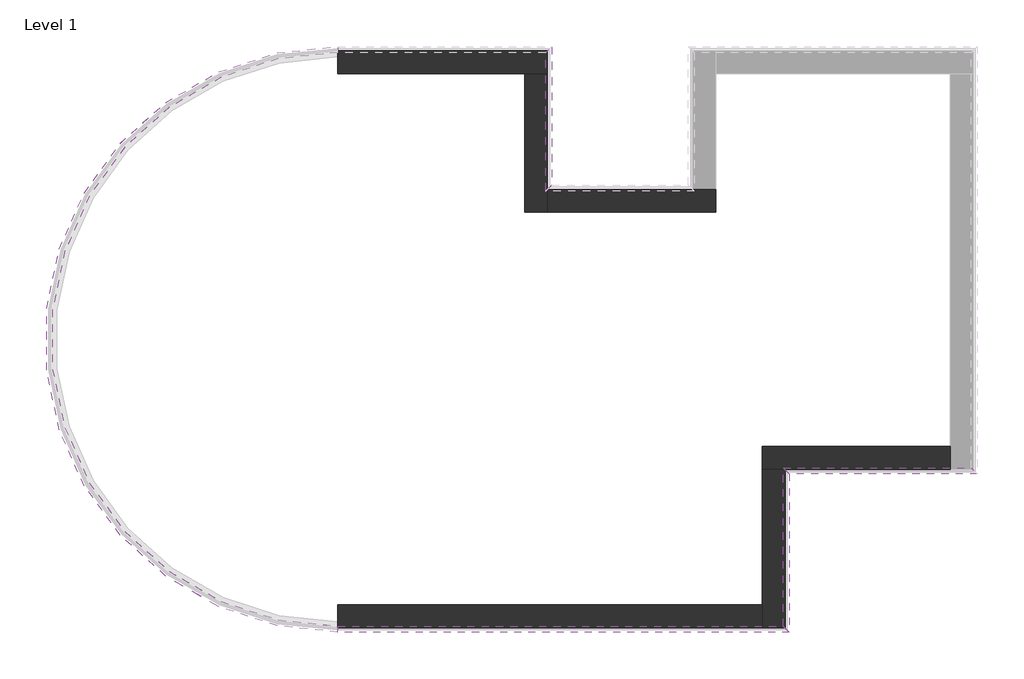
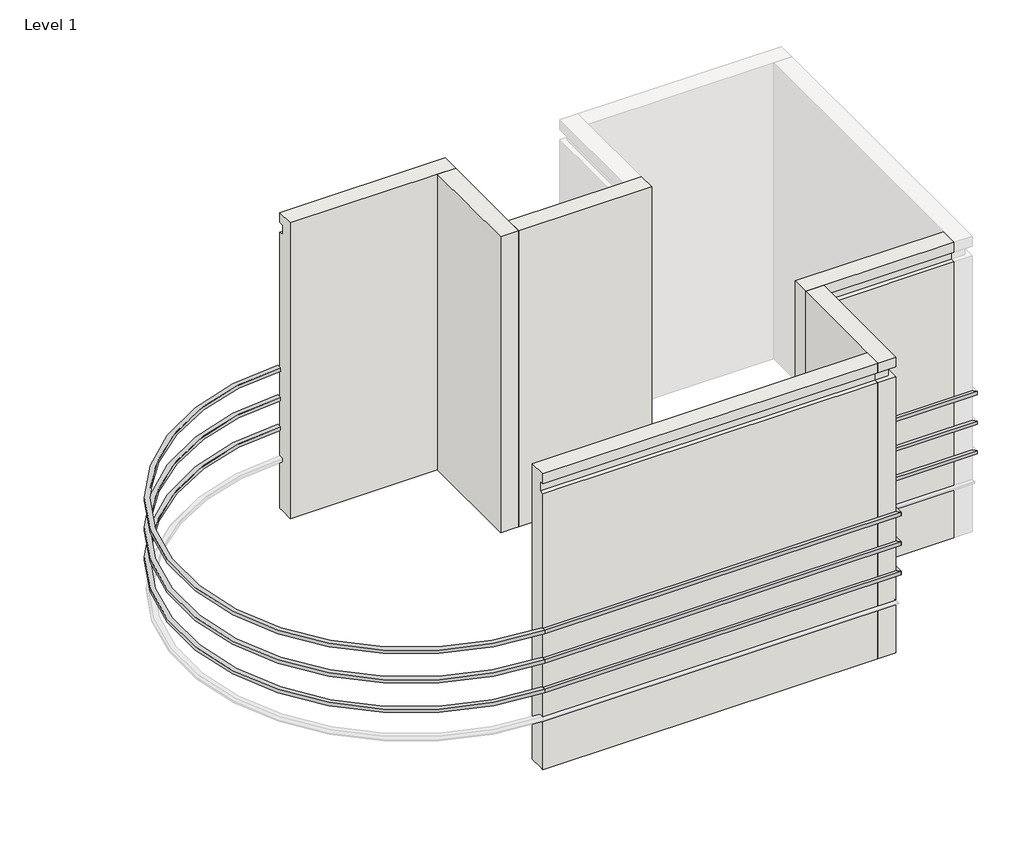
# One storey, part 1 of 2: 16 proxies, 6 walls.
"""IFC4 building model written with IfcOpenShell, lengths in millimetres."""

from ifc_helpers import new_model, si_unit, point, frame, frame_2d, origin, place, context, project, spatial, polyline, circle_curve, trimmed, segment, composite_curve, outline, extrude, faceted_brep, element, save

model = new_model("IFC4")

# Units and contexts
model_context = context("Model", 3, world=origin())
ifc_project = project(units=[si_unit("LENGTHUNIT", "METRE", prefix="MILLI")], contexts=[model_context])

# Site, building, storey
site = spatial("IfcSite", under=ifc_project)
building = spatial("IfcBuilding", under=site)
storey = spatial("IfcBuildingStorey", under=building, Name="Level 1", Elevation=0.0)

# Proxies
placement = place(None, origin())
element("IfcBuildingElementProxy", 1, Name="Reveals", at=placement, inside=storey, context=model_context, shape_type="SweptSolid", body=[
    extrude(outline(polyline([(-12454.5969576, 12119.8701144), (-12362.5219576, 12211.9451144), (-12362.5219576, 10078.3451144), (-12454.5969576, 9986.2701144), (-12454.5969576, 12119.8701144)])), frame((0.0, 0.0, 1625.6), z_axis=(0.0, 0.0, 1.0), x_axis=(1.0, 0.0, 0.0)), (0.0, 0.0, 1.0), 67.7333333),
])
element("IfcBuildingElementProxy", 2, Name="Reveals", at=placement, inside=storey, context=model_context, shape_type="SweptSolid", body=[
    extrude(outline(polyline([(-12454.5969576, 12119.8701144), (-12362.5219576, 12211.9451144), (-12362.5219576, 10078.3451144), (-12454.5969576, 9986.2701144), (-12454.5969576, 12119.8701144)])), frame((0.0, 0.0, 2235.2), z_axis=(0.0, 0.0, 1.0), x_axis=(1.0, 0.0, 0.0)), (0.0, 0.0, 1.0), 67.7333333),
])
element("IfcBuildingElementProxy", 3, Name="Reveals", at=placement, inside=storey, context=model_context, shape_type="SweptSolid", body=[
    extrude(outline(polyline([(-12454.5969576, 12119.8701144), (-12362.5219576, 12211.9451144), (-12362.5219576, 10078.3451144), (-12454.5969576, 9986.2701144), (-12454.5969576, 12119.8701144)])), frame((0.0, 0.0, 2844.8), z_axis=(0.0, 0.0, 1.0), x_axis=(1.0, 0.0, 0.0)), (0.0, 0.0, 1.0), 67.7333333),
])
element("IfcBuildingElementProxy", 4, Name="Reveals", at=placement, inside=storey, context=model_context, shape_type="SweptSolid", body=[
    extrude(outline(polyline([(-12454.5969576, 9986.2701144), (-12362.5219576, 10078.3451144), (-10257.4969576, 10078.3451144), (-10165.4219576, 9986.2701144), (-12454.5969576, 9986.2701144)])), frame((0.0, 0.0, 1625.6), z_axis=(0.0, 0.0, 1.0), x_axis=(1.0, 0.0, 0.0)), (0.0, 0.0, 1.0), 67.7333333),
])
element("IfcBuildingElementProxy", 5, Name="Reveals", at=placement, inside=storey, context=model_context, shape_type="SweptSolid", body=[
    extrude(outline(polyline([(-5901.3969576, 5722.2451144), (-5809.3219576, 5630.1701144), (-8704.9219576, 5630.1701144), (-8796.9969576, 5722.2451144), (-5901.3969576, 5722.2451144)])), frame((0.0, 0.0, 1625.6), z_axis=(0.0, 0.0, 1.0), x_axis=(1.0, 0.0, 0.0)), (0.0, 0.0, 1.0), 67.7333333),
])
element("IfcBuildingElementProxy", 6, Name="Reveals", at=placement, inside=storey, context=model_context, shape_type="SweptSolid", body=[
    extrude(outline(polyline([(-5901.3969576, 5722.2451144), (-5809.3219576, 5630.1701144), (-8704.9219576, 5630.1701144), (-8796.9969576, 5722.2451144), (-5901.3969576, 5722.2451144)])), frame((0.0, 0.0, 2235.2), z_axis=(0.0, 0.0, 1.0), x_axis=(1.0, 0.0, 0.0)), (0.0, 0.0, 1.0), 67.7333333),
])
element("IfcBuildingElementProxy", 7, Name="Reveals", at=placement, inside=storey, context=model_context, shape_type="SweptSolid", body=[
    extrude(outline(polyline([(-5901.3969576, 5722.2451144), (-5809.3219576, 5630.1701144), (-8704.9219576, 5630.1701144), (-8796.9969576, 5722.2451144), (-5901.3969576, 5722.2451144)])), frame((0.0, 0.0, 2844.8), z_axis=(0.0, 0.0, 1.0), x_axis=(1.0, 0.0, 0.0)), (0.0, 0.0, 1.0), 67.7333333),
])
element("IfcBuildingElementProxy", 8, Name="Reveals", at=placement, inside=storey, context=model_context, shape_type="SweptSolid", body=[
    extrude(outline(polyline([(-8796.9969576, 5722.2451144), (-8704.9219576, 5630.1701144), (-8704.9219576, 3191.7701144), (-8796.9969576, 3283.8451144), (-8796.9969576, 5722.2451144)])), frame((0.0, 0.0, 1625.6), z_axis=(0.0, 0.0, 1.0), x_axis=(1.0, 0.0, 0.0)), (0.0, 0.0, 1.0), 67.7333333),
])
element("IfcBuildingElementProxy", 9, Name="Reveals", at=placement, inside=storey, context=model_context, shape_type="SweptSolid", body=[
    extrude(outline(polyline([(-8796.9969576, 5722.2451144), (-8704.9219576, 5630.1701144), (-8704.9219576, 3191.7701144), (-8796.9969576, 3283.8451144), (-8796.9969576, 5722.2451144)])), frame((0.0, 0.0, 2235.2), z_axis=(0.0, 0.0, 1.0), x_axis=(1.0, 0.0, 0.0)), (0.0, 0.0, 1.0), 67.7333333),
])
element("IfcBuildingElementProxy", 10, Name="Reveals", at=placement, inside=storey, context=model_context, shape_type="SweptSolid", body=[
    extrude(outline(polyline([(-8796.9969576, 5722.2451144), (-8704.9219576, 5630.1701144), (-8704.9219576, 3191.7701144), (-8796.9969576, 3283.8451144), (-8796.9969576, 5722.2451144)])), frame((0.0, 0.0, 2844.8), z_axis=(0.0, 0.0, 1.0), x_axis=(1.0, 0.0, 0.0)), (0.0, 0.0, 1.0), 67.7333333),
])
element("IfcBuildingElementProxy", 11, Name="Reveals", at=placement, inside=storey, context=model_context, shape_type="SweptSolid", body=[
    extrude(outline(polyline([(-8796.9969576, 3283.8451144), (-8704.9219576, 3191.7701144), (-15653.4094576, 3191.7701144), (-15653.4094576, 3283.8451144), (-8796.9969576, 3283.8451144)])), frame((0.0, 0.0, 1625.6), z_axis=(0.0, 0.0, 1.0), x_axis=(1.0, 0.0, 0.0)), (0.0, 0.0, 1.0), 67.7333333),
])
element("IfcBuildingElementProxy", 12, Name="Reveals", at=placement, inside=storey, context=model_context, shape_type="SweptSolid", body=[
    extrude(outline(polyline([(-8796.9969576, 3283.8451144), (-8704.9219576, 3191.7701144), (-15653.4094576, 3191.7701144), (-15653.4094576, 3283.8451144), (-8796.9969576, 3283.8451144)])), frame((0.0, 0.0, 2235.2), z_axis=(0.0, 0.0, 1.0), x_axis=(1.0, 0.0, 0.0)), (0.0, 0.0, 1.0), 67.7333333),
])
element("IfcBuildingElementProxy", 13, Name="Reveals", at=placement, inside=storey, context=model_context, shape_type="SweptSolid", body=[
    extrude(outline(polyline([(-8796.9969576, 3283.8451144), (-8704.9219576, 3191.7701144), (-15653.4094576, 3191.7701144), (-15653.4094576, 3283.8451144), (-8796.9969576, 3283.8451144)])), frame((0.0, 0.0, 2844.8), z_axis=(0.0, 0.0, 1.0), x_axis=(1.0, 0.0, 0.0)), (0.0, 0.0, 1.0), 67.7333333),
])
element("IfcBuildingElementProxy", 14, Name="Reveals", at=placement, inside=storey, context=model_context, shape_type="SweptSolid", body=[
    extrude(outline(composite_curve([segment(trimmed(circle_curve(frame_2d((-15653.4094576, 7701.8576144)), 4418.0125), [point((-15653.4094576, 12119.8701144))], [point((-15653.4094576, 3283.8451144))], True, "CARTESIAN"), True, "CONTINUOUS"), segment(polyline([(-15653.4094576, 3283.8451144), (-15653.4094576, 3191.7701144)]), True, "CONTINUOUS"), segment(trimmed(circle_curve(frame_2d((-15653.4094576, 7701.8576144)), 4510.0875), [point((-15653.4094576, 3191.7701144))], [point((-15653.4094576, 12211.9451144))], False, "CARTESIAN"), True, "CONTINUOUS"), segment(polyline([(-15653.4094576, 12211.9451144), (-15653.4094576, 12119.8701144)]), True, "CONTINUOUS")], self_intersect=False)), frame((0.0, 0.0, 1625.6), z_axis=(0.0, 0.0, 1.0), x_axis=(1.0, 0.0, 0.0)), (0.0, 0.0, 1.0), 67.7333333),
])
element("IfcBuildingElementProxy", 15, Name="Reveals", at=placement, inside=storey, context=model_context, shape_type="SweptSolid", body=[
    extrude(outline(composite_curve([segment(trimmed(circle_curve(frame_2d((-15653.4094576, 7701.8576144)), 4418.0125), [point((-15653.4094576, 12119.8701144))], [point((-15653.4094576, 3283.8451144))], True, "CARTESIAN"), True, "CONTINUOUS"), segment(polyline([(-15653.4094576, 3283.8451144), (-15653.4094576, 3191.7701144)]), True, "CONTINUOUS"), segment(trimmed(circle_curve(frame_2d((-15653.4094576, 7701.8576144)), 4510.0875), [point((-15653.4094576, 3191.7701144))], [point((-15653.4094576, 12211.9451144))], False, "CARTESIAN"), True, "CONTINUOUS"), segment(polyline([(-15653.4094576, 12211.9451144), (-15653.4094576, 12119.8701144)]), True, "CONTINUOUS")], self_intersect=False)), frame((0.0, 0.0, 2235.2), z_axis=(0.0, 0.0, 1.0), x_axis=(1.0, 0.0, 0.0)), (0.0, 0.0, 1.0), 67.7333333),
])
element("IfcBuildingElementProxy", 16, Name="Reveals", at=placement, inside=storey, context=model_context, shape_type="SweptSolid", body=[
    extrude(outline(composite_curve([segment(trimmed(circle_curve(frame_2d((-15653.4094576, 7701.8576144)), 4418.0125), [point((-15653.4094576, 12119.8701144))], [point((-15653.4094576, 3283.8451144))], True, "CARTESIAN"), True, "CONTINUOUS"), segment(polyline([(-15653.4094576, 3283.8451144), (-15653.4094576, 3191.7701144)]), True, "CONTINUOUS"), segment(trimmed(circle_curve(frame_2d((-15653.4094576, 7701.8576144)), 4510.0875), [point((-15653.4094576, 3191.7701144))], [point((-15653.4094576, 12211.9451144))], False, "CARTESIAN"), True, "CONTINUOUS"), segment(polyline([(-15653.4094576, 12211.9451144), (-15653.4094576, 12119.8701144)]), True, "CONTINUOUS")], self_intersect=False)), frame((0.0, 0.0, 2844.8), z_axis=(0.0, 0.0, 1.0), x_axis=(1.0, 0.0, 0.0)), (0.0, 0.0, 1.0), 67.7333333),
])

# Walls
element("IfcWall", 17, ObjectType="Exterior - Brick and CMU on MTL. Stud", at=placement, inside=storey, context=model_context, shape_type="Brep", body=[
    faceted_brep([(-15653.4094576, 11792.8451144, 0.0), (-12781.6219576, 11792.8451144, 0.0), (-12429.1969576, 11792.8451144, 0.0), (-12429.1969576, 11792.8451144, 1016.0), (-12521.2719576, 11792.8451144, 1016.0), (-12521.2719576, 11792.8451144, 1085.85), (-12429.1969576, 11792.8451144, 1085.85), (-12429.1969576, 11792.8451144, 1625.6), (-12454.5969576, 11792.8451144, 1625.6), (-12454.5969576, 11792.8451144, 1693.3333333), (-12429.1969576, 11792.8451144, 1693.3333333), (-12429.1969576, 11792.8451144, 2235.2), (-12454.5969576, 11792.8451144, 2235.2), (-12454.5969576, 11792.8451144, 2302.9333333), (-12429.1969576, 11792.8451144, 2302.9333333), (-12429.1969576, 11792.8451144, 2844.8), (-12454.5969576, 11792.8451144, 2844.8), (-12454.5969576, 11792.8451144, 2912.5333333), (-12429.1969576, 11792.8451144, 2912.5333333), (-12429.1969576, 11792.8451144, 5689.6), (-12521.2719576, 11792.8451144, 5689.6), (-12521.2719576, 11792.8451144, 5892.8), (-12429.1969576, 11792.8451144, 5892.8), (-12429.1969576, 11792.8451144, 6096.0), (-12781.6219576, 11792.8451144, 6096.0), (-15653.4094576, 11792.8451144, 6096.0), (-15653.4094576, 12145.2701144, 6096.0), (-12429.1969576, 12145.2701144, 6096.0), (-12429.1969576, 12145.2701144, 5892.8), (-15653.4094576, 12145.2701144, 5892.8), (-12429.1969576, 12145.2701144, 0.0), (-15653.4094576, 12145.2701144, 0.0), (-15653.4094576, 12145.2701144, 1016.0), (-12429.1969576, 12145.2701144, 1016.0), (-12429.1969576, 12145.2701144, 1693.3333333), (-15653.4094576, 12145.2701144, 1693.3333333), (-15653.4094576, 12145.2701144, 2235.2), (-12429.1969576, 12145.2701144, 2235.2), (-15653.4094576, 12145.2701144, 1625.6), (-12429.1969576, 12145.2701144, 1625.6), (-12429.1969576, 12145.2701144, 1085.85), (-15653.4094576, 12145.2701144, 1085.85), (-12429.1969576, 12145.2701144, 2302.9333333), (-15653.4094576, 12145.2701144, 2302.9333333), (-15653.4094576, 12145.2701144, 2844.8), (-12429.1969576, 12145.2701144, 2844.8), (-12429.1969576, 12145.2701144, 2912.5333333), (-15653.4094576, 12145.2701144, 2912.5333333), (-15653.4094576, 12145.2701144, 5689.6), (-12429.1969576, 12145.2701144, 5689.6), (-15653.4094576, 12053.1951144, 5892.8), (-15653.4094576, 12053.1951144, 5689.6), (-15653.4094576, 12119.8701144, 2912.5333333), (-15653.4094576, 12119.8701144, 2844.8), (-15653.4094576, 12119.8701144, 2302.9333333), (-15653.4094576, 12119.8701144, 2235.2), (-15653.4094576, 12119.8701144, 1693.3333333), (-15653.4094576, 12119.8701144, 1625.6), (-15653.4094576, 12053.1951144, 1085.85), (-15653.4094576, 12053.1951144, 1016.0), (-15653.4094576, 12053.1951144, 0.0), (-12429.1969576, 12053.1951144, 0.0), (-12454.5969576, 12119.8701144, 1693.3333333), (-12454.5969576, 12119.8701144, 1625.6), (-12454.5969576, 12119.8701144, 2302.9333333), (-12454.5969576, 12119.8701144, 2235.2), (-12454.5969576, 12119.8701144, 2912.5333333), (-12454.5969576, 12119.8701144, 2844.8), (-12521.2719576, 12053.1951144, 1085.85), (-12521.2719576, 12053.1951144, 1016.0), (-12521.2719576, 12053.1951144, 5689.6), (-12521.2719576, 12053.1951144, 5892.8)], [[[0, 1, 2, 3, 4, 5, 6, 7, 8, 9, 10, 11, 12, 13, 14, 15, 16, 17, 18, 19, 20, 21, 22, 23, 24, 25]], [[26, 27, 28, 29]], [[30, 31, 32, 33]], [[34, 35, 36, 37]], [[38, 39, 40, 41]], [[42, 43, 44, 45]], [[46, 47, 48, 49]], [[25, 24, 23, 27, 26]], [[0, 25, 26, 29, 50, 51, 48, 47, 52, 53, 44, 43, 54, 55, 36, 35, 56, 57, 38, 41, 58, 59, 32, 31, 60]], [[2, 1, 0, 60, 61]], [[60, 31, 30, 61]], [[62, 56, 35, 34, 10, 9]], [[57, 63, 8, 7, 39, 38]], [[56, 62, 63, 57]], [[64, 54, 43, 42, 14, 13]], [[55, 65, 12, 11, 37, 36]], [[54, 64, 65, 55]], [[66, 52, 47, 46, 18, 17]], [[53, 67, 16, 15, 45, 44]], [[52, 66, 67, 53]], [[68, 58, 41, 40, 6, 5]], [[59, 69, 4, 3, 33, 32]], [[58, 68, 69, 59]], [[51, 70, 20, 19, 49, 48]], [[70, 51, 50, 71]], [[71, 50, 29, 28, 22, 21]], [[27, 23, 22, 28]], [[2, 61, 30, 33, 3]], [[10, 34, 37, 11]], [[39, 7, 6, 40]], [[14, 42, 45, 15]], [[18, 46, 49, 19]], [[63, 62, 9, 8]], [[65, 64, 13, 12]], [[67, 66, 17, 16]], [[69, 68, 5, 4]], [[70, 71, 21, 20]]]),
])
element("IfcWall", 18, ObjectType="Exterior - Brick and CMU on MTL. Stud", at=placement, inside=storey, context=model_context, shape_type="Brep", body=[
    faceted_brep([(-12781.6219576, 11792.8451144, 0.0), (-12781.6219576, 9659.2451144, 0.0), (-12781.6219576, 9659.2451144, 6096.0), (-12781.6219576, 11792.8451144, 6096.0), (-12429.1969576, 11792.8451144, 6096.0), (-12429.1969576, 10011.6701144, 6096.0), (-12429.1969576, 9659.2451144, 6096.0), (-12429.1969576, 9659.2451144, 0.0), (-12429.1969576, 10011.6701144, 0.0), (-12429.1969576, 11792.8451144, 0.0), (-12429.1969576, 11792.8451144, 1016.0), (-12429.1969576, 10011.6701144, 1016.0), (-12429.1969576, 9919.5951144, 1016.0), (-12429.1969576, 9919.5951144, 1085.85), (-12429.1969576, 10011.6701144, 1085.85), (-12429.1969576, 11792.8451144, 1085.85), (-12429.1969576, 11792.8451144, 1625.6), (-12429.1969576, 10011.6701144, 1625.6), (-12429.1969576, 9986.2701144, 1625.6), (-12429.1969576, 9986.2701144, 1693.3333333), (-12429.1969576, 10011.6701144, 1693.3333333), (-12429.1969576, 11792.8451144, 1693.3333333), (-12429.1969576, 11792.8451144, 2235.2), (-12429.1969576, 10011.6701144, 2235.2), (-12429.1969576, 9986.2701144, 2235.2), (-12429.1969576, 9986.2701144, 2302.9333333), (-12429.1969576, 10011.6701144, 2302.9333333), (-12429.1969576, 11792.8451144, 2302.9333333), (-12429.1969576, 11792.8451144, 2844.8), (-12429.1969576, 10011.6701144, 2844.8), (-12429.1969576, 9986.2701144, 2844.8), (-12429.1969576, 9986.2701144, 2912.5333333), (-12429.1969576, 10011.6701144, 2912.5333333), (-12429.1969576, 11792.8451144, 2912.5333333), (-12429.1969576, 11792.8451144, 5689.6), (-12429.1969576, 10011.6701144, 5689.6), (-12429.1969576, 9919.5951144, 5689.6), (-12429.1969576, 9919.5951144, 5892.8), (-12429.1969576, 10011.6701144, 5892.8), (-12429.1969576, 11792.8451144, 5892.8), (-12521.2719576, 11792.8451144, 0.0), (-12521.2719576, 9659.2451144, 0.0), (-12454.5969576, 9986.2701144, 1625.6), (-12454.5969576, 11792.8451144, 1625.6), (-12454.5969576, 11792.8451144, 1693.3333333), (-12454.5969576, 9986.2701144, 1693.3333333), (-12454.5969576, 9986.2701144, 2235.2), (-12454.5969576, 11792.8451144, 2235.2), (-12454.5969576, 11792.8451144, 2302.9333333), (-12454.5969576, 9986.2701144, 2302.9333333), (-12454.5969576, 9986.2701144, 2844.8), (-12454.5969576, 11792.8451144, 2844.8), (-12454.5969576, 11792.8451144, 2912.5333333), (-12454.5969576, 9986.2701144, 2912.5333333), (-12521.2719576, 9919.5951144, 1016.0), (-12521.2719576, 11792.8451144, 1016.0), (-12521.2719576, 11792.8451144, 1085.85), (-12521.2719576, 9919.5951144, 1085.85), (-12521.2719576, 9919.5951144, 5892.8), (-12521.2719576, 9919.5951144, 5689.6), (-12521.2719576, 11792.8451144, 5689.6), (-12521.2719576, 11792.8451144, 5892.8)], [[[0, 1, 2, 3]], [[4, 5, 6, 7, 8, 9, 10, 11, 12, 13, 14, 15, 16, 17, 18, 19, 20, 21, 22, 23, 24, 25, 26, 27, 28, 29, 30, 31, 32, 33, 34, 35, 36, 37, 38, 39]], [[3, 2, 6, 5, 4]], [[1, 0, 40, 41]], [[42, 43, 44, 45]], [[46, 47, 48, 49]], [[50, 51, 52, 53]], [[54, 55, 56, 57]], [[58, 59, 60, 61]], [[0, 3, 4, 39, 61, 60, 34, 33, 52, 51, 28, 27, 48, 47, 22, 21, 44, 43, 16, 15, 56, 55, 10, 9, 40]], [[9, 8, 7, 41, 40]], [[45, 44, 21, 20, 19]], [[43, 42, 18, 17, 16]], [[49, 48, 27, 26, 25]], [[47, 46, 24, 23, 22]], [[53, 52, 33, 32, 31]], [[51, 50, 30, 29, 28]], [[57, 56, 15, 14, 13]], [[55, 54, 12, 11, 10]], [[60, 59, 36, 35, 34]], [[37, 58, 61, 39, 38]], [[2, 1, 41, 7, 6]], [[42, 45, 19, 18]], [[46, 49, 25, 24]], [[50, 53, 31, 30]], [[54, 57, 13, 12]], [[59, 58, 37, 36]]]),
])
element("IfcWall", 19, ObjectType="Exterior - Brick and CMU on MTL. Stud", at=placement, inside=storey, context=model_context, shape_type="Brep", body=[
    faceted_brep([(-12429.1969576, 9659.2451144, 0.0), (-9838.3969576, 9659.2451144, 0.0), (-9838.3969576, 9659.2451144, 6096.0), (-12429.1969576, 9659.2451144, 6096.0), (-12429.1969576, 10011.6701144, 6096.0), (-10190.8219576, 10011.6701144, 6096.0), (-9838.3969576, 10011.6701144, 6096.0), (-9838.3969576, 10011.6701144, 0.0), (-10190.8219576, 10011.6701144, 0.0), (-12429.1969576, 10011.6701144, 0.0), (-12429.1969576, 10011.6701144, 1016.0), (-10190.8219576, 10011.6701144, 1016.0), (-10098.7469576, 10011.6701144, 1016.0), (-10098.7469576, 10011.6701144, 1085.85), (-10190.8219576, 10011.6701144, 1085.85), (-12429.1969576, 10011.6701144, 1085.85), (-12429.1969576, 10011.6701144, 1625.6), (-10190.8219576, 10011.6701144, 1625.6), (-10165.4219576, 10011.6701144, 1625.6), (-10165.4219576, 10011.6701144, 1693.3333333), (-10190.8219576, 10011.6701144, 1693.3333333), (-12429.1969576, 10011.6701144, 1693.3333333), (-12429.1969576, 10011.6701144, 2235.2), (-10190.8219576, 10011.6701144, 2235.2), (-10165.4219576, 10011.6701144, 2235.2), (-10165.4219576, 10011.6701144, 2302.9333333), (-10190.8219576, 10011.6701144, 2302.9333333), (-12429.1969576, 10011.6701144, 2302.9333333), (-12429.1969576, 10011.6701144, 2844.8), (-10190.8219576, 10011.6701144, 2844.8), (-10165.4219576, 10011.6701144, 2844.8), (-10165.4219576, 10011.6701144, 2912.5333333), (-10190.8219576, 10011.6701144, 2912.5333333), (-12429.1969576, 10011.6701144, 2912.5333333), (-12429.1969576, 10011.6701144, 5689.6), (-10190.8219576, 10011.6701144, 5689.6), (-10098.7469576, 10011.6701144, 5689.6), (-10098.7469576, 10011.6701144, 5892.8), (-10190.8219576, 10011.6701144, 5892.8), (-12429.1969576, 10011.6701144, 5892.8), (-12429.1969576, 9919.5951144, 0.0), (-9838.3969576, 9919.5951144, 0.0), (-10165.4219576, 9986.2701144, 1625.6), (-12429.1969576, 9986.2701144, 1625.6), (-12429.1969576, 9986.2701144, 1693.3333333), (-10165.4219576, 9986.2701144, 1693.3333333), (-10165.4219576, 9986.2701144, 2235.2), (-12429.1969576, 9986.2701144, 2235.2), (-12429.1969576, 9986.2701144, 2302.9333333), (-10165.4219576, 9986.2701144, 2302.9333333), (-10165.4219576, 9986.2701144, 2844.8), (-12429.1969576, 9986.2701144, 2844.8), (-12429.1969576, 9986.2701144, 2912.5333333), (-10165.4219576, 9986.2701144, 2912.5333333), (-10098.7469576, 9919.5951144, 1016.0), (-12429.1969576, 9919.5951144, 1016.0), (-12429.1969576, 9919.5951144, 1085.85), (-10098.7469576, 9919.5951144, 1085.85), (-10098.7469576, 9919.5951144, 5892.8), (-10098.7469576, 9919.5951144, 5689.6), (-12429.1969576, 9919.5951144, 5689.6), (-12429.1969576, 9919.5951144, 5892.8)], [[[0, 1, 2, 3]], [[4, 5, 6, 7, 8, 9, 10, 11, 12, 13, 14, 15, 16, 17, 18, 19, 20, 21, 22, 23, 24, 25, 26, 27, 28, 29, 30, 31, 32, 33, 34, 35, 36, 37, 38, 39]], [[3, 2, 6, 5, 4]], [[1, 0, 40, 41]], [[42, 43, 44, 45]], [[46, 47, 48, 49]], [[50, 51, 52, 53]], [[54, 55, 56, 57]], [[58, 59, 60, 61]], [[0, 3, 4, 39, 61, 60, 34, 33, 52, 51, 28, 27, 48, 47, 22, 21, 44, 43, 16, 15, 56, 55, 10, 9, 40]], [[9, 8, 7, 41, 40]], [[45, 44, 21, 20, 19]], [[43, 42, 18, 17, 16]], [[49, 48, 27, 26, 25]], [[47, 46, 24, 23, 22]], [[53, 52, 33, 32, 31]], [[51, 50, 30, 29, 28]], [[57, 56, 15, 14, 13]], [[55, 54, 12, 11, 10]], [[60, 59, 36, 35, 34]], [[37, 58, 61, 39, 38]], [[2, 1, 41, 7, 6]], [[42, 45, 19, 18]], [[46, 49, 25, 24]], [[50, 53, 31, 30]], [[54, 57, 13, 12]], [[59, 58, 37, 36]]]),
])
element("IfcWall", 20, ObjectType="Exterior - Brick and CMU on MTL. Stud", at=placement, inside=storey, context=model_context, shape_type="Brep", body=[
    faceted_brep([(-6228.4219576, 6049.2701144, 0.0), (-9124.0219576, 6049.2701144, 0.0), (-9124.0219576, 6049.2701144, 6096.0), (-6228.4219576, 6049.2701144, 6096.0), (-6228.4219576, 5696.8451144, 6096.0), (-8771.5969576, 5696.8451144, 6096.0), (-9124.0219576, 5696.8451144, 6096.0), (-9124.0219576, 5696.8451144, 0.0), (-8771.5969576, 5696.8451144, 0.0), (-6228.4219576, 5696.8451144, 0.0), (-6228.4219576, 5696.8451144, 1016.0), (-8771.5969576, 5696.8451144, 1016.0), (-8863.6719576, 5696.8451144, 1016.0), (-8863.6719576, 5696.8451144, 1085.85), (-8771.5969576, 5696.8451144, 1085.85), (-6228.4219576, 5696.8451144, 1085.85), (-6228.4219576, 5696.8451144, 1625.6), (-8771.5969576, 5696.8451144, 1625.6), (-8796.9969576, 5696.8451144, 1625.6), (-8796.9969576, 5696.8451144, 1693.3333333), (-8771.5969576, 5696.8451144, 1693.3333333), (-6228.4219576, 5696.8451144, 1693.3333333), (-6228.4219576, 5696.8451144, 2235.2), (-8771.5969576, 5696.8451144, 2235.2), (-8796.9969576, 5696.8451144, 2235.2), (-8796.9969576, 5696.8451144, 2302.9333333), (-8771.5969576, 5696.8451144, 2302.9333333), (-6228.4219576, 5696.8451144, 2302.9333333), (-6228.4219576, 5696.8451144, 2844.8), (-8771.5969576, 5696.8451144, 2844.8), (-8796.9969576, 5696.8451144, 2844.8), (-8796.9969576, 5696.8451144, 2912.5333333), (-8771.5969576, 5696.8451144, 2912.5333333), (-6228.4219576, 5696.8451144, 2912.5333333), (-6228.4219576, 5696.8451144, 5689.6), (-8771.5969576, 5696.8451144, 5689.6), (-8863.6719576, 5696.8451144, 5689.6), (-8863.6719576, 5696.8451144, 5892.8), (-8771.5969576, 5696.8451144, 5892.8), (-6228.4219576, 5696.8451144, 5892.8), (-6228.4219576, 5788.9201144, 0.0), (-9124.0219576, 5788.9201144, 0.0), (-8796.9969576, 5722.2451144, 1625.6), (-6228.4219576, 5722.2451144, 1625.6), (-6228.4219576, 5722.2451144, 1693.3333333), (-8796.9969576, 5722.2451144, 1693.3333333), (-8796.9969576, 5722.2451144, 2235.2), (-6228.4219576, 5722.2451144, 2235.2), (-6228.4219576, 5722.2451144, 2302.9333333), (-8796.9969576, 5722.2451144, 2302.9333333), (-8796.9969576, 5722.2451144, 2844.8), (-6228.4219576, 5722.2451144, 2844.8), (-6228.4219576, 5722.2451144, 2912.5333333), (-8796.9969576, 5722.2451144, 2912.5333333), (-8863.6719576, 5788.9201144, 1016.0), (-6228.4219576, 5788.9201144, 1016.0), (-6228.4219576, 5788.9201144, 1085.85), (-8863.6719576, 5788.9201144, 1085.85), (-8863.6719576, 5788.9201144, 5892.8), (-8863.6719576, 5788.9201144, 5689.6), (-6228.4219576, 5788.9201144, 5689.6), (-6228.4219576, 5788.9201144, 5892.8)], [[[0, 1, 2, 3]], [[4, 5, 6, 7, 8, 9, 10, 11, 12, 13, 14, 15, 16, 17, 18, 19, 20, 21, 22, 23, 24, 25, 26, 27, 28, 29, 30, 31, 32, 33, 34, 35, 36, 37, 38, 39]], [[3, 2, 6, 5, 4]], [[1, 0, 40, 41]], [[42, 43, 44, 45]], [[46, 47, 48, 49]], [[50, 51, 52, 53]], [[54, 55, 56, 57]], [[58, 59, 60, 61]], [[0, 3, 4, 39, 61, 60, 34, 33, 52, 51, 28, 27, 48, 47, 22, 21, 44, 43, 16, 15, 56, 55, 10, 9, 40]], [[9, 8, 7, 41, 40]], [[45, 44, 21, 20, 19]], [[43, 42, 18, 17, 16]], [[49, 48, 27, 26, 25]], [[47, 46, 24, 23, 22]], [[53, 52, 33, 32, 31]], [[51, 50, 30, 29, 28]], [[57, 56, 15, 14, 13]], [[55, 54, 12, 11, 10]], [[60, 59, 36, 35, 34]], [[37, 58, 61, 39, 38]], [[2, 1, 41, 7, 6]], [[42, 45, 19, 18]], [[46, 49, 25, 24]], [[50, 53, 31, 30]], [[54, 57, 13, 12]], [[59, 58, 37, 36]]]),
])
element("IfcWall", 21, ObjectType="Exterior - Brick and CMU on MTL. Stud", at=placement, inside=storey, context=model_context, shape_type="Brep", body=[
    faceted_brep([(-9124.0219576, 5696.8451144, 0.0), (-9124.0219576, 3610.8701144, 0.0), (-9124.0219576, 3258.4451144, 0.0), (-9124.0219576, 3258.4451144, 1016.0), (-9124.0219576, 3350.5201144, 1016.0), (-9124.0219576, 3350.5201144, 1085.85), (-9124.0219576, 3258.4451144, 1085.85), (-9124.0219576, 3258.4451144, 1625.6), (-9124.0219576, 3283.8451144, 1625.6), (-9124.0219576, 3283.8451144, 1693.3333333), (-9124.0219576, 3258.4451144, 1693.3333333), (-9124.0219576, 3258.4451144, 2235.2), (-9124.0219576, 3283.8451144, 2235.2), (-9124.0219576, 3283.8451144, 2302.9333333), (-9124.0219576, 3258.4451144, 2302.9333333), (-9124.0219576, 3258.4451144, 2844.8), (-9124.0219576, 3283.8451144, 2844.8), (-9124.0219576, 3283.8451144, 2912.5333333), (-9124.0219576, 3258.4451144, 2912.5333333), (-9124.0219576, 3258.4451144, 5689.6), (-9124.0219576, 3350.5201144, 5689.6), (-9124.0219576, 3350.5201144, 5892.8), (-9124.0219576, 3258.4451144, 5892.8), (-9124.0219576, 3258.4451144, 6096.0), (-9124.0219576, 3610.8701144, 6096.0), (-9124.0219576, 5696.8451144, 6096.0), (-8771.5969576, 5696.8451144, 6096.0), (-8771.5969576, 3258.4451144, 6096.0), (-8771.5969576, 3258.4451144, 5892.8), (-8771.5969576, 5696.8451144, 5892.8), (-8771.5969576, 3258.4451144, 0.0), (-8771.5969576, 5696.8451144, 0.0), (-8771.5969576, 5696.8451144, 1016.0), (-8771.5969576, 3258.4451144, 1016.0), (-8771.5969576, 3258.4451144, 1693.3333333), (-8771.5969576, 5696.8451144, 1693.3333333), (-8771.5969576, 5696.8451144, 2235.2), (-8771.5969576, 3258.4451144, 2235.2), (-8771.5969576, 5696.8451144, 1625.6), (-8771.5969576, 3258.4451144, 1625.6), (-8771.5969576, 3258.4451144, 1085.85), (-8771.5969576, 5696.8451144, 1085.85), (-8771.5969576, 3258.4451144, 2302.9333333), (-8771.5969576, 5696.8451144, 2302.9333333), (-8771.5969576, 5696.8451144, 2844.8), (-8771.5969576, 3258.4451144, 2844.8), (-8771.5969576, 3258.4451144, 2912.5333333), (-8771.5969576, 5696.8451144, 2912.5333333), (-8771.5969576, 5696.8451144, 5689.6), (-8771.5969576, 3258.4451144, 5689.6), (-8863.6719576, 5696.8451144, 0.0), (-8863.6719576, 3258.4451144, 0.0), (-8796.9969576, 3283.8451144, 1625.6), (-8796.9969576, 5696.8451144, 1625.6), (-8796.9969576, 5696.8451144, 1693.3333333), (-8796.9969576, 3283.8451144, 1693.3333333), (-8796.9969576, 3283.8451144, 2235.2), (-8796.9969576, 5696.8451144, 2235.2), (-8796.9969576, 5696.8451144, 2302.9333333), (-8796.9969576, 3283.8451144, 2302.9333333), (-8796.9969576, 3283.8451144, 2844.8), (-8796.9969576, 5696.8451144, 2844.8), (-8796.9969576, 5696.8451144, 2912.5333333), (-8796.9969576, 3283.8451144, 2912.5333333), (-8863.6719576, 3350.5201144, 1016.0), (-8863.6719576, 5696.8451144, 1016.0), (-8863.6719576, 5696.8451144, 1085.85), (-8863.6719576, 3350.5201144, 1085.85), (-8863.6719576, 3350.5201144, 5892.8), (-8863.6719576, 3350.5201144, 5689.6), (-8863.6719576, 5696.8451144, 5689.6), (-8863.6719576, 5696.8451144, 5892.8)], [[[0, 1, 2, 3, 4, 5, 6, 7, 8, 9, 10, 11, 12, 13, 14, 15, 16, 17, 18, 19, 20, 21, 22, 23, 24, 25]], [[26, 27, 28, 29]], [[30, 31, 32, 33]], [[34, 35, 36, 37]], [[38, 39, 40, 41]], [[42, 43, 44, 45]], [[46, 47, 48, 49]], [[25, 24, 23, 27, 26]], [[2, 1, 0, 50, 51]], [[52, 53, 54, 55]], [[56, 57, 58, 59]], [[60, 61, 62, 63]], [[64, 65, 66, 67]], [[68, 69, 70, 71]], [[0, 25, 26, 29, 71, 70, 48, 47, 62, 61, 44, 43, 58, 57, 36, 35, 54, 53, 38, 41, 66, 65, 32, 31, 50]], [[31, 30, 51, 50]], [[55, 54, 35, 34, 10, 9]], [[53, 52, 8, 7, 39, 38]], [[59, 58, 43, 42, 14, 13]], [[57, 56, 12, 11, 37, 36]], [[63, 62, 47, 46, 18, 17]], [[61, 60, 16, 15, 45, 44]], [[67, 66, 41, 40, 6, 5]], [[65, 64, 4, 3, 33, 32]], [[70, 69, 20, 19, 49, 48]], [[21, 68, 71, 29, 28, 22]], [[27, 23, 22, 28]], [[2, 51, 30, 33, 3]], [[10, 34, 37, 11]], [[39, 7, 6, 40]], [[14, 42, 45, 15]], [[18, 46, 49, 19]], [[52, 55, 9, 8]], [[56, 59, 13, 12]], [[60, 63, 17, 16]], [[64, 67, 5, 4]], [[69, 68, 21, 20]]]),
])
element("IfcWall", 22, ObjectType="Exterior - Brick and CMU on MTL. Stud", at=placement, inside=storey, context=model_context, shape_type="SweptSolid", body=[
    extrude(outline(polyline([(3610.8701144, 6096.0), (3610.8701144, 0.0), (3350.5201144, 0.0), (3258.4451144, 0.0), (3258.4451144, 1016.0), (3350.5201144, 1016.0), (3350.5201144, 1085.85), (3258.4451144, 1085.85), (3258.4451144, 1625.6), (3283.8451144, 1625.6), (3283.8451144, 1693.3333333), (3258.4451144, 1693.3333333), (3258.4451144, 2235.2), (3283.8451144, 2235.2), (3283.8451144, 2302.9333333), (3258.4451144, 2302.9333333), (3258.4451144, 2844.8), (3283.8451144, 2844.8), (3283.8451144, 2912.5333333), (3258.4451144, 2912.5333333), (3258.4451144, 5689.6), (3350.5201144, 5689.6), (3350.5201144, 5892.8), (3258.4451144, 5892.8), (3258.4451144, 6096.0), (3610.8701144, 6096.0)])), frame((-15653.4094576, 0.0, 0.0), z_axis=(1.0, 0.0, 0.0), x_axis=(0.0, 1.0, 0.0)), (0.0, 0.0, 1.0), 6529.3875),
])

save(model, "model.ifc")
